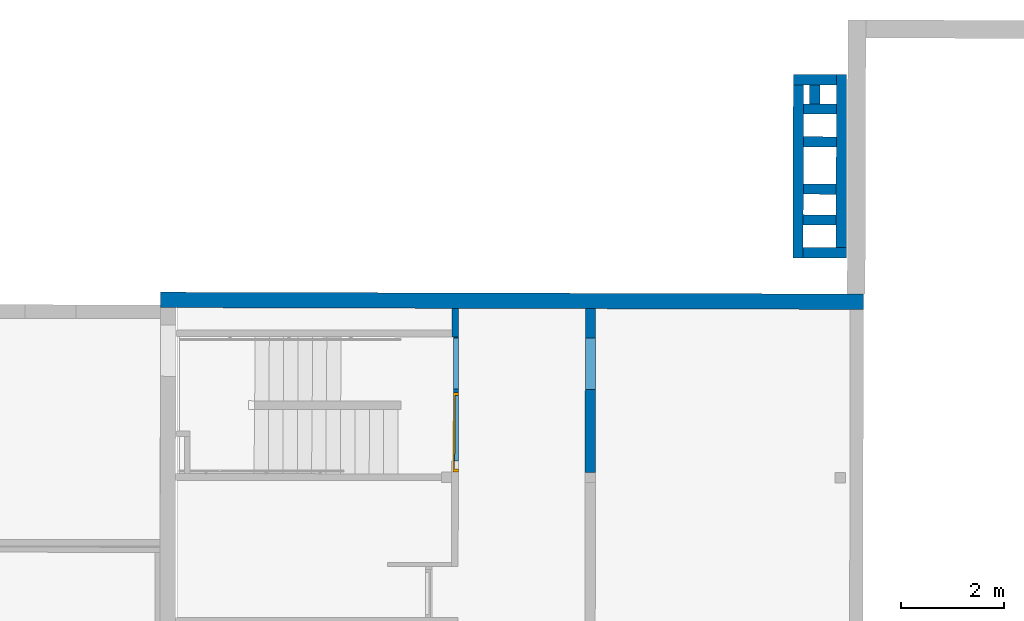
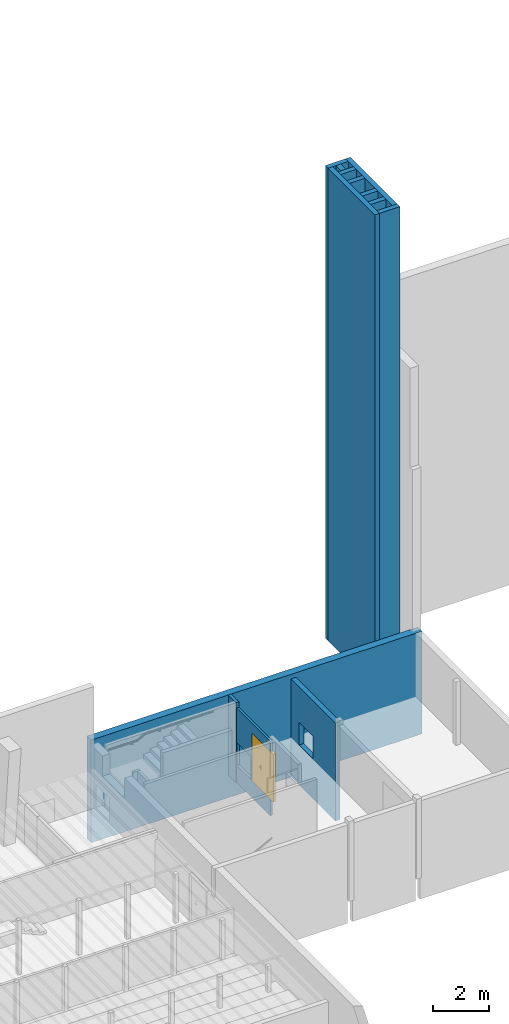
# One storey, part 10 of 24: 13 walls, 1 door, 3 openings.
"""IFC2X3 building model written with IfcOpenShell, lengths in metres."""

import ifcopenshell
import ifcopenshell.guid

model = None  # the IFC model being written
_history = None  # IfcOwnerHistory: only IFC2X3 demands one
_inside = {}  # id of a spatial element -> (the spatial element, [elements in it])
_under = {}  # id of a project, library or spatial element -> (it, [spatial elements below it])
_declared = {}  # id of a project -> (the project, [libraries it declares])
_typed = {}  # id of a type object -> (the type object, [elements of that type])
_made_of = {}  # id of a material, layer set ... -> (it, [elements and type objects made of it])


def new_model(schema):
    """Start an empty IFC model of exactly this schema.

    Asked for "IFC4X3", IfcOpenShell would pick the latest addendum, in which some entities
    have other attributes; the version numbers below select the first issue.
    IFC2X3 requires an IfcOwnerHistory on every rooted entity: one is made here for all.
    """
    global model, _history
    if schema == "IFC4X3":
        model = ifcopenshell.file(schema_version=(4, 3, 0, 0))
    else:
        model = ifcopenshell.file(schema=schema)
    _inside.clear()
    _under.clear()
    _declared.clear()
    _typed.clear()
    _made_of.clear()
    _history = None
    if model.schema == "IFC2X3":
        org = make("IfcOrganization", Name="unknown")
        user = make(
            "IfcPersonAndOrganization",
            ThePerson=make("IfcPerson", FamilyName="unknown"),
            TheOrganization=org,
        )
        app = make(
            "IfcApplication",
            ApplicationDeveloper=org,
            Version="unknown",
            ApplicationFullName="unknown",
            ApplicationIdentifier="unknown",
        )
        _history = make(
            "IfcOwnerHistory",
            OwningUser=user,
            OwningApplication=app,
            ChangeAction="ADDED",
            CreationDate=0,
        )
    return model


def make(cls, **values):
    """One entity of the class cls with the attributes given. An attribute that is None is left unset."""
    return model.create_entity(
        cls, **{name: value for name, value in values.items() if value is not None}
    )


def entity(cls, *values):
    """Any entity or typed value of the class cls, its attributes in the order of the schema. None: left unset."""
    e = model.create_entity(cls)
    for i, value in enumerate(values):
        if value is not None:
            e[i] = value
    return e


def rooted(cls, **values):
    """An entity with a GlobalId (a new one), such as an element, a storey or a relation."""
    return make(cls, GlobalId=ifcopenshell.guid.new(), OwnerHistory=_history, **values)


def si_unit(unit_type, name, prefix=None):
    """IfcSIUnit, for example si_unit("LENGTHUNIT", "METRE", prefix="MILLI")."""
    return make("IfcSIUnit", UnitType=unit_type, Prefix=prefix, Name=name)


def converted_unit(unit_type, name, factor, base, dimensions=None, offset=None):
    """IfcConversionBasedUnit, such as the inch: factor (a typed value) times the base unit."""
    return make(
        "IfcConversionBasedUnit"
        if offset is None
        else "IfcConversionBasedUnitWithOffset",
        ConversionOffset=offset,
        Dimensions=None
        if dimensions is None
        else entity("IfcDimensionalExponents", *dimensions),
        UnitType=unit_type,
        Name=name,
        ConversionFactor=make(
            "IfcMeasureWithUnit", ValueComponent=factor, UnitComponent=base
        ),
    )


def derived_unit(unit_type, elements):
    """IfcDerivedUnit: a product of units, each with its exponent."""
    return make(
        "IfcDerivedUnit",
        Elements=[
            make("IfcDerivedUnitElement", Unit=unit, Exponent=power)
            for unit, power in elements
        ],
        UnitType=unit_type,
    )


def assignment(units):
    """IfcUnitAssignment: the units of a project."""
    return None if units is None else make("IfcUnitAssignment", Units=units)


def point(xyz):
    """IfcCartesianPoint."""
    return None if xyz is None else make("IfcCartesianPoint", Coordinates=xyz)


def direction(xyz):
    """IfcDirection."""
    return None if xyz is None else make("IfcDirection", DirectionRatios=xyz)


def frame(location, z_axis=None, x_axis=None):
    """IfcAxis2Placement3D, a coordinate frame: its origin and axes. An axis left out is left unset."""
    return make(
        "IfcAxis2Placement3D",
        Location=point(location),
        Axis=direction(z_axis),
        RefDirection=direction(x_axis),
    )


def frame_2d(location, x_axis=None):
    """IfcAxis2Placement2D, a coordinate frame in the plane: its origin and x axis."""
    return make(
        "IfcAxis2Placement2D", Location=point(location), RefDirection=direction(x_axis)
    )


def origin():
    """The frame at (0, 0, 0) with its axes left unset."""
    return frame((0.0, 0.0, 0.0))


def place(relative_to, where):
    """IfcLocalPlacement: puts the frame where relative to a parent placement (None: the world)."""
    return make(
        "IfcLocalPlacement", PlacementRelTo=relative_to, RelativePlacement=where
    )


def context(
    kind, dimensions, precision=None, world=None, true_north=None, identifier=None
):
    """IfcGeometricRepresentationContext, for example the 3D "Model" context."""
    return make(
        "IfcGeometricRepresentationContext",
        ContextIdentifier=identifier,
        ContextType=kind,
        CoordinateSpaceDimension=dimensions,
        Precision=precision,
        WorldCoordinateSystem=world,
        TrueNorth=true_north,
    )


def subcontext(parent, identifier, kind, view, scale=None):
    """IfcGeometricRepresentationSubContext, for example "Body" below "Model"."""
    return make(
        "IfcGeometricRepresentationSubContext",
        ContextIdentifier=identifier,
        ContextType=kind,
        ParentContext=parent,
        TargetScale=scale,
        TargetView=view,
    )


def project(units=None, contexts=None):
    """IfcProject with its units and contexts."""
    return rooted(
        "IfcProject",
        Name="project",
        RepresentationContexts=contexts,
        UnitsInContext=assignment(units),
    )


def spatial(cls, under=None, at=None, **own):
    """A site, building, storey or space (cls), placed at a placement, below another one or the project."""
    s = rooted(cls, ObjectPlacement=at, **own)
    if under is not None:
        _under.setdefault(under.id(), (under, []))[1].append(s)
    return s


def polyline(points):
    """IfcPolyline through the points."""
    return make("IfcPolyline", Points=[point(p) for p in points])


def profile(cls, at=None, kind="AREA", **sizes):
    """A parametric profile (cls). Its sizes go by their IFC names, for example OverallWidth=200.0."""
    return make(cls, ProfileType=kind, Position=at, **sizes)


def rectangle(**sizes):
    """IfcRectangleProfileDef."""
    return profile("IfcRectangleProfileDef", **sizes)


def outline(outer, holes=None, kind="AREA"):
    """IfcArbitraryClosedProfileDef: a profile drawn as a closed curve; with holes, ...WithVoids."""
    if holes is None:
        return make("IfcArbitraryClosedProfileDef", ProfileType=kind, OuterCurve=outer)
    return make(
        "IfcArbitraryProfileDefWithVoids",
        ProfileType=kind,
        OuterCurve=outer,
        InnerCurves=holes,
    )


def extrude(swept, where, along, depth):
    """IfcExtrudedAreaSolid: the profile swept, set in the frame where, extruded along a direction by depth."""
    return make(
        "IfcExtrudedAreaSolid",
        SweptArea=swept,
        Position=where,
        ExtrudedDirection=direction(along),
        Depth=depth,
    )


def clip(a, b, op="DIFFERENCE"):
    """IfcBooleanClippingResult: the solid a cut by the half space b."""
    return make(
        "IfcBooleanClippingResult", Operator=op, FirstOperand=a, SecondOperand=b
    )


def bounded_halfspace(plane, agree, where, boundary):
    """IfcPolygonalBoundedHalfSpace: a half space limited to a polygon's prism."""
    return make(
        "IfcPolygonalBoundedHalfSpace",
        BaseSurface=make("IfcPlane", Position=plane),
        AgreementFlag=agree,
        Position=where,
        PolygonalBoundary=boundary,
    )


def faces_of(points, faces, orient=None, outer=None):
    """IfcFace entities. A face is a list of loops; a loop is a list of indices into points, from 0.

    orient and outer hold one flag for each loop. By default every Orientation is true, the
    first loop of a face is its IfcFaceOuterBound and the others are IfcFaceBound.
    """
    made = []
    for i, loops in enumerate(faces):
        bounds = []
        for j, loop in enumerate(loops):
            is_outer = j == 0 if outer is None else outer[i][j]
            bounds.append(
                make(
                    "IfcFaceOuterBound" if is_outer else "IfcFaceBound",
                    Bound=make("IfcPolyLoop", Polygon=[points[k] for k in loop]),
                    Orientation=True if orient is None else orient[i][j],
                )
            )
        made.append(make("IfcFace", Bounds=bounds))
    return made


def faceted_brep(points, faces, orient=None, outer=None, voids=None):
    """IfcFacetedBrep: a solid bounded by flat faces; with voids (closed shells), ...WithVoids."""
    shared = [point(p) for p in points]
    hull = make("IfcClosedShell", CfsFaces=faces_of(shared, faces, orient, outer))
    if voids is None:
        return make("IfcFacetedBrep", Outer=hull)
    return make(
        "IfcFacetedBrepWithVoids",
        Outer=hull,
        Voids=[
            make(cls, CfsFaces=faces_of(shared, fs, o, b)) for cls, fs, o, b in voids
        ],
    )


def shape(context_of_items, identifier, shape_type, items):
    """IfcShapeRepresentation: the items that make up one representation, for example the "Body"."""
    return make(
        "IfcShapeRepresentation",
        ContextOfItems=context_of_items,
        RepresentationIdentifier=identifier,
        RepresentationType=shape_type,
        Items=items,
    )


def source(mapping_origin, context_of_items, identifier, shape_type, items):
    """IfcRepresentationMap: a shape defined once, which mapped items show again and again."""
    return make(
        "IfcRepresentationMap",
        MappingOrigin=mapping_origin,
        MappedRepresentation=shape(context_of_items, identifier, shape_type, items),
    )


def transform(
    local_origin,
    x_axis=None,
    y_axis=None,
    z_axis=None,
    scale=None,
    scale2=None,
    scale3=None,
    uniform=True,
):
    """IfcCartesianTransformationOperator3D, or its non-uniform kind. x_axis, y_axis, z_axis: its Axis1, 2, 3."""
    if uniform:
        return make(
            "IfcCartesianTransformationOperator3D",
            Axis1=direction(x_axis),
            Axis2=direction(y_axis),
            LocalOrigin=point(local_origin),
            Scale=scale,
            Axis3=direction(z_axis),
        )
    return make(
        "IfcCartesianTransformationOperator3DnonUniform",
        Axis1=direction(x_axis),
        Axis2=direction(y_axis),
        LocalOrigin=point(local_origin),
        Scale=scale,
        Axis3=direction(z_axis),
        Scale2=scale2,
        Scale3=scale3,
    )


def mapped(mapping_source, mapping_target):
    """IfcMappedItem: shows the shape of a source again, moved by a transform."""
    return make(
        "IfcMappedItem", MappingSource=mapping_source, MappingTarget=mapping_target
    )


def material(Name=None, Category=None):
    """IfcMaterial."""
    return make("IfcMaterial", Name=Name, Category=Category)


def material_list(materials):
    """IfcMaterialList."""
    return make("IfcMaterialList", Materials=materials)


def layer(
    of_material, thickness, ventilated=None, Name=None, Category=None, Priority=None
):
    """IfcMaterialLayer: one layer of a wall or slab, of a material (None: an air gap)."""
    return make(
        "IfcMaterialLayer",
        Material=of_material,
        LayerThickness=thickness,
        IsVentilated=ventilated,
        Name=Name,
        Category=Category,
        Priority=Priority,
    )


def layer_set(layers, Name=None):
    """IfcMaterialLayerSet."""
    return make("IfcMaterialLayerSet", MaterialLayers=layers, LayerSetName=Name)


def layer_usage(for_layer_set, set_direction, sense, offset, extent=None):
    """IfcMaterialLayerSetUsage: how a layer set lies in its element."""
    return make(
        "IfcMaterialLayerSetUsage",
        ForLayerSet=for_layer_set,
        LayerSetDirection=set_direction,
        DirectionSense=sense,
        OffsetFromReferenceLine=offset,
        ReferenceExtent=extent,
    )


def made_of(thing, what):
    """Note that an element or type object is made of a material, layer set ...; save() writes the relation."""
    if what is not None:
        _made_of.setdefault(what.id(), (what, []))[1].append(thing)
    return thing


def type_object(cls, material=None, **own):
    """A type object (cls), such as IfcWallType, which elements share."""
    return made_of(rooted(cls, **own), material)


def type_shapes(of_type, sources):
    """Give a type object the sources (RepresentationMaps) that its elements show as mapped items."""
    of_type.RepresentationMaps = sources


def element(
    cls,
    number,
    at=None,
    inside=None,
    cuts=None,
    type_object=None,
    material=None,
    context=None,
    identifier="Body",
    shape_type=None,
    held_by="IfcProductDefinitionShape",
    body=None,
    shapes=None,
    **own,
):
    """One element of the class cls, such as IfcWall. Its Tag is "e" and its number.

    at: its placement. inside: the storey or other place that contains it. cuts: it is an
    opening in that element (IfcRelVoidsElement). A single representation is given by context,
    identifier, shape_type and body (its items); several are given by shapes. held_by: the class
    of the entity that holds the representations. save() writes the other relations.
    """
    e = rooted(cls, Tag="e%d" % number, ObjectPlacement=at, **own)
    if body is not None:
        shapes = [shape(context, identifier, shape_type, body)]
    if shapes is not None:
        e.Representation = make(held_by, Representations=shapes)
    if inside is not None:
        _inside.setdefault(inside.id(), (inside, []))[1].append(e)
    if cuts is not None:
        rooted(
            "IfcRelVoidsElement", RelatingBuildingElement=cuts, RelatedOpeningElement=e
        )
    if type_object is not None:
        _typed.setdefault(type_object.id(), (type_object, []))[1].append(e)
    return made_of(e, material)


def fill(opening, filler):
    """IfcRelFillsElement: the door or window that sits in an opening."""
    return rooted(
        "IfcRelFillsElement",
        RelatingOpeningElement=opening,
        RelatedBuildingElement=filler,
    )


def aggregate(whole, parts):
    """IfcRelAggregates: a whole, such as a stair, and the parts it consists of."""
    return rooted("IfcRelAggregates", RelatingObject=whole, RelatedObjects=parts)


def save(model, path):
    """Write the relations noted so far, then the file.

    IfcRelAggregates (storeys below a building ...), IfcRelContainedInSpatialStructure (elements
    in a storey), IfcRelDefinesByType, IfcRelAssociatesMaterial and IfcRelDeclares: one each for
    every whole, place, type object, material and project.
    """
    for whole, parts in _under.values():
        aggregate(whole, parts)
    for where, things in _inside.values():
        rooted(
            "IfcRelContainedInSpatialStructure",
            RelatedElements=things,
            RelatingStructure=where,
        )
    for kind, things in _typed.values():
        rooted("IfcRelDefinesByType", RelatedObjects=things, RelatingType=kind)
    for what, things in _made_of.values():
        rooted("IfcRelAssociatesMaterial", RelatedObjects=things, RelatingMaterial=what)
    for by, libraries in _declared.values():
        rooted("IfcRelDeclares", RelatingContext=by, RelatedDefinitions=libraries)
    model.write(path)


model = new_model("IFC2X3")

# Units and contexts
model_context = context("Model", 3, precision=1e-05, world=origin(), true_north=direction((6.123233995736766e-17, 1.0)))
body_context = subcontext(model_context, "Body", "Model", "MODEL_VIEW")
ifc_project = project(units=[si_unit("LENGTHUNIT", "METRE"), si_unit("AREAUNIT", "SQUARE_METRE"), converted_unit("PLANEANGLEUNIT", "DEGREE", entity("IfcPlaneAngleMeasure", 0.017453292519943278), si_unit("PLANEANGLEUNIT", "RADIAN"), dimensions=[0, 0, 0, 0, 0, 0, 0]), derived_unit("THERMALTRANSMITTANCEUNIT", [(si_unit("MASSUNIT", "GRAM", prefix="KILO"), 1), (si_unit("THERMODYNAMICTEMPERATUREUNIT", "KELVIN"), -1), (si_unit("TIMEUNIT", "SECOND"), -3)])], contexts=[model_context])

# Site, building, storey
site_placement = place(None, frame((1253.6752467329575, 2072.143113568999, 91.49999999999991), z_axis=(0.0, 0.0, 1.0), x_axis=(0.7237211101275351, 0.6900925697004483, 0.0)))
site = spatial("IfcSite", under=ifc_project, at=site_placement, Name="Surface", CompositionType="ELEMENT")
building_placement = place(site_placement, origin())
building = spatial("IfcBuilding", under=site, at=building_placement, CompositionType="ELEMENT")
storey_placement = place(building_placement, frame((0.0, 0.0, -7.049999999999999)))
storey = spatial("IfcBuildingStorey", under=building, at=storey_placement, Name="R-1", CompositionType="ELEMENT", Elevation=-7.049999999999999)

# Wall
ifc_material_1 = material(Name="OMD_Béton blanc")
ifc_layer_1 = layer(ifc_material_1, 0.12999999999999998)
ifc_layer_set_1 = layer_set([ifc_layer_1], Name="Mur de base:MUR 13")
ifc_layer_usage_1 = layer_usage(ifc_layer_set_1, "AXIS2", "NEGATIVE", 0.06499999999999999)
wall_type_1 = type_object("IfcWallType", Name="Mur de base:MUR 13", PredefinedType="STANDARD", material=ifc_layer_set_1)
wall_1_placement = place(storey_placement, frame((195.5922756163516, -0.7708145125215, 0.0), z_axis=(0.0, 0.0, 1.0), x_axis=(-0.6909838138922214, -0.722870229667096, 0.0)))
element("IfcWallStandardCase", 1, at=wall_1_placement, inside=storey, type_object=wall_type_1, material=ifc_layer_usage_1, Name="Mur de base:MUR 13", ObjectType="Mur de base:MUR 13", context=body_context, shape_type="SweptSolid", body=[
    extrude(outline(polyline([(-0.04833396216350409, -0.20648252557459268), (-0.01833018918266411, -0.20648252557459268), (0.08166603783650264, -0.206482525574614), (0.08166603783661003, 0.3478758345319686), (-0.04833396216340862, 0.348054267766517), (-0.0483339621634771, -0.07648252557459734), (-0.04833396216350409, -0.20648252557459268)])), frame((0.34805426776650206, -0.01666603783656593, 0.0), z_axis=(0.0, 0.0, 1.0), x_axis=(0.0, 1.0, 0.0)), (0.0, 0.0, 1.0), 3.499999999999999),
])

# Wall, openings, door
ifc_layer_2 = layer(ifc_material_1, 0.1)
ifc_layer_set_2 = layer_set([ifc_layer_2], Name="Mur de base:MUR 10")
ifc_layer_usage_2 = layer_usage(ifc_layer_set_2, "AXIS2", "NEGATIVE", 0.05)
wall_type_2 = type_object("IfcWallType", Name="Mur de base:MUR 10", PredefinedType="STANDARD", material=ifc_layer_set_2)
wall_2_placement = place(storey_placement, frame((195.21994544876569, -1.1820400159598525, 0.0), z_axis=(0.0, 0.0, 1.0), x_axis=(-0.690983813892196, -0.7228702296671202, 0.0)))
wall_2 = element("IfcWallStandardCase", 2, at=wall_2_placement, inside=storey, type_object=wall_type_2, material=ifc_layer_usage_2, Name="Mur de base:MUR 10", ObjectType="Mur de base:MUR 10", context=body_context, shape_type="Clipping", body=[
    clip(extrude(rectangle(XDim=2.4150000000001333, YDim=0.10000000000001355, at=frame_2d((1.2075000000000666, 2.192690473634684e-15), x_axis=(-1.0, 0.0))), origin(), (0.0, 0.0, 1.0), 3.2529999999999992), bounded_halfspace(frame((0.0, -0.04999999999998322, 3.2529999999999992), z_axis=(0.0, 0.0, -1.0), x_axis=(1.0, 0.0, 0.0)), True, frame((0.0, -0.04999999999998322, 3.2529999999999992)), polyline([(0.0, 0.0), (2.4150000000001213, 0.0), (2.4150000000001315, 0.09999999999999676), (0.0, 0.09999999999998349), (0.0, 0.0)]))),
])
opening_1_placement = place(wall_2_placement, frame((134.03936091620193, -141.9354573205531, 0.7499999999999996)))
element("IfcOpeningElement", 3, at=opening_1_placement, cuts=wall_2, Name="Mur de base:MUR 10", ObjectType="Opening", context=body_context, shape_type="SweptSolid", body=[
    extrude(rectangle(XDim=1.0, YDim=0.9999999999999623, at=frame_2d((0.0, 2.145505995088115e-14), x_axis=(1.0, 0.0))), frame((-133.51936091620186, 140.46145732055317, 0.5), z_axis=(0.0, 1.0, 0.0), x_axis=(0.0, 0.0, -1.0)), (0.0, 0.0, 1.0), 3.0480000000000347),
])
opening_2_placement = place(wall_2_placement, frame((2.6349999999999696, 0.05000000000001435, 0.7299999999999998)))
opening_2 = element("IfcOpeningElement", 4, at=opening_2_placement, cuts=wall_2, Name="OMD_Porte 2V tunnel:140x204:1", ObjectType="Opening", context=body_context, shape_type="SweptSolid", body=[
    extrude(rectangle(XDim=2.085, YDim=1.5499999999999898, at=frame_2d((1.0425, 0.7749999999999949), x_axis=(1.0, 0.0))), frame((0.0, 0.0, 0.0), z_axis=(0.0, -1.0, 0.0), x_axis=(0.0, 0.0, 1.0)), (0.0, 0.0, 1.0), 0.1),
])
ifc_material_2 = material(Name="<Unnamed>")
ifc_material_3 = material(Name="Porte - Poignée")
ifc_material_4 = material(Name="OMD_Bois")
ifc_material_list = material_list([ifc_material_2, ifc_material_3, ifc_material_4])
door_style = type_object("IfcDoorStyle", Name="OMD_Porte 2V tunnel:140x204", ConstructionType="NOTDEFINED", OperationType="NOTDEFINED", ParameterTakesPrecedence=False, Sizeable=False, material=ifc_material_list)
shared_shape = source(origin(), body_context, "Body", "Brep", [
    faceted_brep([(0.1450000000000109, 0.030000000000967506, 0.0), (0.6750000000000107, 0.030000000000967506, 0.0), (0.6750000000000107, 0.0, 0.0), (0.1450000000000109, 0.0, 0.0), (0.1450000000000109, 0.030000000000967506, 2.04), (0.1450000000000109, 0.0, 2.04), (0.6750000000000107, 0.0, 2.04), (0.6750000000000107, 0.030000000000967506, 2.04)], [[[0, 1, 2, 3]], [[4, 0, 3, 5]], [[5, 3, 2, 6]], [[6, 2, 1, 7]], [[7, 1, 0, 4]], [[4, 5, 6, 7]]]),
    faceted_brep([(0.7279747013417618, 0.035000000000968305, 1.0077804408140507), (0.7239999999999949, 0.035000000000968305, 1.0069999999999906), (0.7239999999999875, 0.035000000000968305, 0.9929999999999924), (0.7279747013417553, 0.035000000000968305, 0.9922195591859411), (0.7320252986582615, 0.035000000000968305, 0.9922195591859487), (0.7360000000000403, 0.035000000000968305, 0.9930000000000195), (0.7360000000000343, 0.035000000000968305, 1.0069999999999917), (0.7320252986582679, 0.035000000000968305, 1.007780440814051), (0.7360000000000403, 0.057485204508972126, 0.9930000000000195), (0.7360000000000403, 0.057485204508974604, 1.0069999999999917), (0.7320252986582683, 0.05913157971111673, 1.007780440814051), (0.7458389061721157, 0.07294518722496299, 1.007780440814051), (0.7441610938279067, 0.07699578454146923, 1.0077804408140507), (0.7279747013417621, 0.06080939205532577, 1.0077804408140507), (0.8356847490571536, 0.06646731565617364, 1.0077804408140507), (0.8385489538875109, 0.06933152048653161, 1.0077804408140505), (0.8308846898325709, 0.07699578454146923, 1.0077804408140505), (0.8292068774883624, 0.07294518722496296, 1.0077804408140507), (0.7239999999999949, 0.06245576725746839, 1.0069999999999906), (0.7239999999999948, 0.06245576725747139, 0.9929999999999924), (0.7279747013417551, 0.060809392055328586, 0.9922195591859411), (0.7441610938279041, 0.07699578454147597, 0.9922195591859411), (0.7458389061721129, 0.07294518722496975, 0.9922195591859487), (0.7320252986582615, 0.05913157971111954, 0.9922195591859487), (0.8385489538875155, 0.06933152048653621, 0.9922195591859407), (0.8356847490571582, 0.06646731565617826, 0.9922195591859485), (0.8292068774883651, 0.07294518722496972, 0.9922195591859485), (0.8308846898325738, 0.07699578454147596, 0.9922195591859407), (0.74748528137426, 0.06897048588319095, 0.9930000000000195), (0.7474852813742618, 0.06897048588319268, 1.0069999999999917), (0.7425147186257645, 0.08097048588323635, 1.0069999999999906), (0.7425147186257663, 0.08097048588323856, 0.9929999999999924), (0.787522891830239, 0.06897048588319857, 0.9930000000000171), (0.8275605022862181, 0.06897048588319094, 0.9930000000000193), (0.8275605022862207, 0.06897048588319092, 1.0069999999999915), (0.787522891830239, 0.06897048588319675, 1.0069999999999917), (0.7875228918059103, 0.07512492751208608, 1.0078781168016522), (0.8325310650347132, 0.0809704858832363, 1.0069999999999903), (0.7926005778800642, 0.08097048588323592, 1.0069999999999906), (0.8325310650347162, 0.08097048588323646, 0.9929999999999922), (0.7824452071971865, 0.08097048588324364, 0.9929999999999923), (0.7875228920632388, 0.07512492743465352, 0.9921218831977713), (0.8328742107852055, 0.06365677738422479, 0.9930000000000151), (0.8413594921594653, 0.0721420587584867, 0.99299999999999), (0.8413594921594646, 0.07214205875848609, 1.0069999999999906), (0.8328742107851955, 0.06365677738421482, 1.0069999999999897)], [[[0, 1, 2, 3, 4, 5, 6, 7]], [[6, 5, 8, 9]], [[9, 10, 7, 6]], [[10, 11, 12, 13, 0, 7]], [[14, 15, 16, 17]], [[13, 18, 1, 0]], [[2, 1, 18, 19]], [[19, 20, 3, 2]], [[20, 21, 22, 23, 4, 3]], [[24, 25, 26, 27]], [[23, 8, 5, 4]], [[9, 8, 28, 29]], [[29, 11, 10, 9]], [[12, 30, 18, 13]], [[19, 18, 30, 31]], [[31, 21, 20, 19]], [[22, 28, 8, 23]], [[29, 28, 32, 33, 34, 35]], [[11, 35, 36]], [[16, 37, 38]], [[30, 12, 38]], [[38, 12, 36]], [[36, 35, 17]], [[17, 16, 36]], [[35, 11, 29]], [[34, 17, 35]], [[11, 36, 12]], [[38, 36, 16]], [[31, 30, 38, 37, 39, 40]], [[40, 41, 21]], [[41, 40, 27]], [[21, 31, 40]], [[39, 27, 40]], [[41, 32, 22]], [[22, 21, 41]], [[26, 32, 41]], [[28, 22, 32]], [[32, 26, 33]], [[26, 41, 27]], [[42, 25, 24, 43, 44, 15, 14, 45]], [[34, 33, 42, 45]], [[45, 14, 17, 34]], [[15, 44, 37, 16]], [[39, 37, 44, 43]], [[43, 24, 27, 39]], [[25, 42, 33, 26]]]),
    faceted_brep([(0.7279747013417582, -0.004999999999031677, 1.0077804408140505), (0.7320252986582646, -0.004999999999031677, 1.007780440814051), (0.7360000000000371, -0.004999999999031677, 1.006999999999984), (0.7360000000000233, -0.004999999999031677, 0.9930000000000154), (0.7320252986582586, -0.004999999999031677, 0.9922195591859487), (0.7279747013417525, -0.004999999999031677, 0.992219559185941), (0.7239999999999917, -0.004999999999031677, 0.992999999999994), (0.7239999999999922, -0.004999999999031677, 1.0069999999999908), (0.723999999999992, -0.03265095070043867, 1.0069999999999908), (0.727974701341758, -0.031004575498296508, 1.0077804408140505), (0.7440235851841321, -0.047053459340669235, 1.0077804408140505), (0.745701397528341, -0.043002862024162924, 1.007780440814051), (0.7320252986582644, -0.029326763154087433, 1.007780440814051), (0.8385218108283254, -0.03938919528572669, 1.0077804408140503), (0.8356576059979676, -0.036524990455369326, 1.0077804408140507), (0.8291797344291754, -0.043002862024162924, 1.0077804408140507), (0.8308575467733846, -0.047053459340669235, 1.0077804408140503), (0.7360000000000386, -0.027680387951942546, 1.0069999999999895), (0.7360000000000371, -0.027680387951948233, 0.9930000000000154), (0.7320252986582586, -0.029326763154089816, 0.9922195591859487), (0.7457013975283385, -0.04300286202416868, 0.9922195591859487), (0.7440235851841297, -0.04705345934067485, 0.992219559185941), (0.7279747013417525, -0.031004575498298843, 0.992219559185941), (0.8356576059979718, -0.03652499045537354, 0.9922195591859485), (0.8385218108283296, -0.03938919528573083, 0.9922195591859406), (0.8308575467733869, -0.04705345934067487, 0.9922195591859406), (0.8291797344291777, -0.04300286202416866, 0.9922195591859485), (0.7239999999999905, -0.03265095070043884, 0.9929999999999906), (0.7423772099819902, -0.051028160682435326, 1.0069999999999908), (0.7473477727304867, -0.03902816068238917, 1.0069999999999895), (0.7473477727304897, -0.03902816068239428, 0.9930000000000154), (0.7423772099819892, -0.05102816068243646, 0.9929999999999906), (0.7823076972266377, -0.05102816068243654, 1.0069999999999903), (0.7874405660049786, -0.045182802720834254, 1.0078781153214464), (0.8325039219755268, -0.051028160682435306, 1.0069999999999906), (0.7874405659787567, -0.039028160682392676, 1.0069999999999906), (0.8275333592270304, -0.039028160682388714, 1.0069999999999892), (0.827533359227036, -0.03902816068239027, 0.9930000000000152), (0.7874405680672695, -0.03902816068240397, 0.9930000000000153), (0.7874405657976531, -0.04518280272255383, 0.9921218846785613), (0.832503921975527, -0.05102816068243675, 0.9929999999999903), (0.7925734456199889, -0.051028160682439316, 0.9929999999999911), (0.8328470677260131, -0.03371445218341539, 1.0069999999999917), (0.8413323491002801, -0.042199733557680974, 1.0069999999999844), (0.841332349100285, -0.04219973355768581, 0.9929999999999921), (0.8328470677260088, -0.03371445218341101, 0.9930000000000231)], [[[0, 1, 2, 3, 4, 5, 6, 7]], [[8, 9, 0, 7]], [[9, 10, 11, 12, 1, 0]], [[13, 14, 15, 16]], [[12, 17, 2, 1]], [[3, 2, 17, 18]], [[18, 19, 4, 3]], [[19, 20, 21, 22, 5, 4]], [[23, 24, 25, 26]], [[22, 27, 6, 5]], [[7, 6, 27, 8]], [[28, 10, 9, 8]], [[11, 29, 17, 12]], [[18, 17, 29, 30]], [[30, 20, 19, 18]], [[21, 31, 27, 22]], [[8, 27, 31, 28]], [[32, 33, 10]], [[33, 32, 16]], [[10, 28, 32]], [[34, 16, 32]], [[33, 35, 11]], [[11, 10, 33]], [[15, 35, 33]], [[29, 11, 35]], [[35, 15, 36]], [[15, 33, 16]], [[30, 29, 35, 36, 37, 38]], [[20, 38, 39]], [[25, 40, 41]], [[31, 21, 41]], [[41, 21, 39]], [[39, 38, 26]], [[26, 25, 39]], [[38, 20, 30]], [[37, 26, 38]], [[20, 39, 21]], [[41, 39, 25]], [[28, 31, 41, 40, 34, 32]], [[42, 14, 13, 43, 44, 24, 23, 45]], [[43, 13, 16, 34]], [[14, 42, 36, 15]], [[37, 36, 42, 45]], [[45, 23, 26, 37]], [[24, 44, 40, 25]], [[34, 40, 44, 43]]]),
    faceted_brep([(0.7403527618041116, 0.030000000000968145, 0.8660039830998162), (0.7500000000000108, 0.030000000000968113, 0.8700000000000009), (0.7500000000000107, 0.030000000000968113, 1.0800000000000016), (0.7403527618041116, 0.030000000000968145, 1.0839960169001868), (0.730000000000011, 0.03000000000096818, 1.0853589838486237), (0.7196472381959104, 0.03000000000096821, 1.0839960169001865), (0.7100000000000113, 0.030000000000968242, 1.0800000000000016), (0.7100000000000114, 0.030000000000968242, 0.8700000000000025), (0.7196472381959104, 0.03000000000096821, 0.866003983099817), (0.7300000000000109, 0.03000000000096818, 0.8646410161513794), (0.7403527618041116, 0.035000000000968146, 1.0839960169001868), (0.7500000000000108, 0.03500000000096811, 1.0800000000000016), (0.7500000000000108, 0.03500000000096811, 0.8700000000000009), (0.7403527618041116, 0.035000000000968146, 0.8660039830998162), (0.7300000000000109, 0.03500000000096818, 0.8646410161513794), (0.7196472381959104, 0.035000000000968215, 0.866003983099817), (0.7100000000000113, 0.03500000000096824, 0.8700000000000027), (0.7100000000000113, 0.03500000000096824, 1.0800000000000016), (0.7196472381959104, 0.035000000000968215, 1.0839960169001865), (0.730000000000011, 0.03500000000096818, 1.0853589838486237)], [[[0, 1, 2, 3, 4, 5, 6, 7, 8, 9]], [[10, 11, 12, 13, 14, 15, 16, 17, 18, 19]], [[11, 10, 3, 2]], [[3, 10, 19, 4]], [[19, 18, 5, 4]], [[18, 17, 6, 5]], [[7, 6, 17, 16]], [[16, 15, 8, 7]], [[8, 15, 14, 9]], [[14, 13, 0, 9]], [[13, 12, 1, 0]], [[2, 1, 12, 11]]]),
    faceted_brep([(0.7403527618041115, -0.004999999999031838, 0.8660039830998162), (0.7500000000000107, -0.004999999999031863, 0.8700000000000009), (0.7500000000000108, -0.004999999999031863, 1.0800000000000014), (0.7403527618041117, -0.004999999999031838, 1.0839960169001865), (0.7300000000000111, -0.004999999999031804, 1.0853589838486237), (0.7196472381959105, -0.00499999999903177, 1.0839960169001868), (0.7100000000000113, -0.0049999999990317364, 1.0800000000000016), (0.7100000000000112, -0.0049999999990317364, 0.8700000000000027), (0.71964723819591, -0.00499999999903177, 0.8660039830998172), (0.7300000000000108, -0.004999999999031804, 0.8646410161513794), (0.7403527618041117, 0.0, 1.0839960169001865), (0.7500000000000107, 0.0, 1.0800000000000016), (0.7500000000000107, 0.0, 0.8700000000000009), (0.7403527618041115, 0.0, 0.8660039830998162), (0.7300000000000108, 0.0, 0.8646410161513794), (0.71964723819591, 0.0, 0.8660039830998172), (0.7100000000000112, 0.0, 0.8700000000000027), (0.7100000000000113, 0.0, 1.0800000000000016), (0.7196472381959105, 0.0, 1.0839960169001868), (0.7300000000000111, 0.0, 1.0853589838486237)], [[[0, 1, 2, 3, 4, 5, 6, 7, 8, 9]], [[10, 11, 12, 13, 14, 15, 16, 17, 18, 19]], [[16, 15, 8, 7]], [[8, 15, 14, 9]], [[14, 13, 0, 9]], [[13, 12, 1, 0]], [[2, 1, 12, 11]], [[11, 10, 3, 2]], [[3, 10, 19, 4]], [[19, 18, 5, 4]], [[18, 17, 6, 5]], [[7, 6, 17, 16]]]),
    faceted_brep([(0.6750000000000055, 0.030000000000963, 0.0), (1.6050000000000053, 0.0300000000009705, 0.0), (1.6050000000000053, 0.0, 0.0), (0.675000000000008, 0.0, 0.0), (0.6750000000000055, 0.030000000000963, 2.04), (0.675000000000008, 0.0, 2.04), (1.6050000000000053, 0.0, 2.04), (1.6050000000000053, 0.0300000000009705, 2.04)], [[[0, 1, 2, 3]], [[4, 0, 3, 5]], [[5, 3, 2, 6]], [[6, 2, 1, 7]], [[7, 1, 0, 4]], [[4, 5, 6, 7]]]),
    faceted_brep([(0.10000000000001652, 0.0, 0.0), (0.10000000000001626, 0.10000000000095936, 0.0), (0.1600000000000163, 0.10000000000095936, 0.0), (0.16000000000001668, 0.030000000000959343, 0.0), (0.14500000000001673, 0.0300000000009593, 0.0), (0.14500000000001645, 0.0, 0.0), (0.14500000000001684, 0.0, 2.0399999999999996), (1.605000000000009, 0.0, 2.0399999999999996), (1.6050000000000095, 0.0, 0.0), (1.6500000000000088, 0.0, 0.0), (1.6500000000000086, 0.0, 2.0849999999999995), (0.10000000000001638, 0.0, 2.085), (0.1450000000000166, 0.0300000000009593, 2.0399999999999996), (0.16000000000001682, 0.030000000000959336, 2.0249999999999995), (1.5900000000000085, 0.03000000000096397, 2.0249999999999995), (1.5900000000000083, 0.03000000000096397, 0.0), (1.6050000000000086, 0.030000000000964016, 0.0), (1.6050000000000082, 0.030000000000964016, 2.039999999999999), (0.16000000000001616, 0.10000000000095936, 2.0249999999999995), (0.10000000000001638, 0.10000000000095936, 2.0849999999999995), (1.6500000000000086, 0.10000000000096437, 2.0849999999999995), (1.6500000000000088, 0.10000000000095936, 0.0), (1.5900000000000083, 0.10000000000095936, 0.0), (1.5900000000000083, 0.10000000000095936, 2.0249999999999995)], [[[0, 1, 2, 3, 4, 5]], [[5, 6, 7, 8, 9, 10, 11, 0]], [[4, 12, 6, 5]], [[3, 13, 14, 15, 16, 17, 12, 4]], [[2, 18, 13, 3]], [[1, 19, 20, 21, 22, 23, 18, 2]], [[0, 11, 19, 1]], [[10, 9, 21, 20]], [[9, 8, 16, 15, 22, 21]], [[17, 16, 8, 7]], [[23, 22, 15, 14]], [[12, 17, 7, 6]], [[18, 23, 14, 13]], [[11, 10, 20, 19]]]),
])
type_shapes(door_style, [shared_shape])
door_placement = place(opening_2_placement, frame((-1.6500000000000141, -0.09999999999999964, 0.0)))
door = element("IfcDoor", 5, at=door_placement, inside=storey, type_object=door_style, material=ifc_material_list, Name="OMD_Porte 2V tunnel:140x204", ObjectType="OMD_Porte 2V tunnel:140x204", OverallHeight=2.085, OverallWidth=1.5499999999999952, context=body_context, shape_type="MappedRepresentation", body=[
    mapped(shared_shape, transform((0.0, 0.0, 0.0), scale=1.0)),
])
fill(opening_2, door)

# Wall
ifc_layer_3 = layer(ifc_material_1, 0.29999999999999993)
ifc_layer_set_3 = layer_set([ifc_layer_3], Name="Mur de base:MUR 30")
ifc_layer_usage_3 = layer_usage(ifc_layer_set_3, "AXIS2", "NEGATIVE", 0.14999999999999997)
wall_type_3 = type_object("IfcWallType", Name="Mur de base:MUR 30", PredefinedType="STANDARD", material=ifc_layer_set_3)
wall_3_placement = place(storey_placement, frame((191.55363755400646, 3.3079534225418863, -1.0), z_axis=(0.0, 0.0, 1.0), x_axis=(0.721921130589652, -0.691975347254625, 0.0)))
element("IfcWallStandardCase", 6, at=wall_3_placement, inside=storey, type_object=wall_type_3, material=ifc_layer_usage_3, Name="Mur de base:MUR 30", ObjectType="Mur de base:MUR 30", context=body_context, shape_type="SweptSolid", body=[
    extrude(outline(polyline([(-0.083862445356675, -6.456805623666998), (0.2161378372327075, -6.456805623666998), (0.2349252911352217, 7.231053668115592), (-0.06507479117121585, 7.231199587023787), (-0.0654865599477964, 6.93119975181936), (-0.07642962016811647, -1.041518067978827), (-0.07670413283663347, -1.2415180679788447), (-0.08350557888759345, -6.196805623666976), (-0.083862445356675, -6.456805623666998)])), frame((7.2313693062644, -0.07499999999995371, 0.0), z_axis=(0.0, 0.0, 1.0), x_axis=(-0.0013725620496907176, 0.9999990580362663, 0.0)), (0.0, 0.0, 1.0), 4.499999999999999),
])

# Wall, opening
ifc_material_5 = material(Name="Béton - Béton coulé sur place")
ifc_layer_4 = layer(ifc_material_5, 0.2)
ifc_layer_set_4 = layer_set([ifc_layer_4], Name="Mur de base:MUR 20")
ifc_layer_usage_4 = layer_usage(ifc_layer_set_4, "AXIS2", "NEGATIVE", 0.1)
wall_type_4 = type_object("IfcWallType", Name="Mur de base:MUR 20", PredefinedType="STANDARD", material=ifc_layer_set_4)
wall_4_placement = place(storey_placement, frame((197.494575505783, -2.594139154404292, -1.0), z_axis=(0.0, 0.0, 1.0), x_axis=(-0.6909838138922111, -0.7228702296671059, 0.0)))
wall_4 = element("IfcWallStandardCase", 7, at=wall_4_placement, inside=storey, type_object=wall_type_4, material=ifc_layer_usage_4, Name="Mur de base:MUR 20", ObjectType="Mur de base:MUR 20", context=body_context, shape_type="SweptSolid", body=[
    extrude(outline(polyline([(-0.10000000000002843, -1.5929154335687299), (0.09999999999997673, -1.5929154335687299), (0.10000000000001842, 1.5927781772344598), (-0.10000000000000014, 1.5930526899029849), (-0.10000000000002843, -1.5929154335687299)])), frame((1.5930526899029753, 0.0, 0.0), z_axis=(0.0, 0.0, 1.0), x_axis=(0.0, 1.0, 0.0)), (0.0, 0.0, 1.0), 4.299999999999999),
])
opening_3_placement = place(storey_placement, frame((197.494575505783, -2.594139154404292, -1.0), z_axis=(0.0, 0.0, 1.0), x_axis=(-0.6909838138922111, -0.7228702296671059, 0.0)))
element("IfcOpeningElement", 8, at=opening_3_placement, cuts=wall_4, Name="Mur de base:MUR 20:1", ObjectType="Opening", context=body_context, shape_type="SweptSolid", body=[
    extrude(rectangle(XDim=1.0, YDim=0.9999999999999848, at=frame_2d((0.0, 2.681188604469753e-14), x_axis=(1.0, 0.0))), frame((1.0709681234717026, -0.1000000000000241, 2.2499999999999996), z_axis=(0.0, 1.0, 0.0), x_axis=(0.0, 0.0, -1.0)), (0.0, 0.0, 1.0), 0.20000000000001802),
])

# Walls
ifc_layer_usage_5 = layer_usage(ifc_layer_set_4, "AXIS2", "NEGATIVE", 0.1)
wall_5_placement = place(storey_placement, frame((203.4314626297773, -2.092177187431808, 0.9000000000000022), z_axis=(0.0, 0.0, 1.0), x_axis=(0.7219211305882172, -0.6919753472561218, 0.0)))
element("IfcWallStandardCase", 9, at=wall_5_placement, inside=storey, type_object=wall_type_4, material=ifc_layer_usage_5, Name="Mur de base:MUR 20", ObjectType="Mur de base:MUR 20", context=body_context, shape_type="SweptSolid", body=[
    extrude(rectangle(XDim=0.8400000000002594, YDim=0.2000000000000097, at=frame_2d((0.4200000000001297, -2.3522850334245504e-15), x_axis=(-1.0, 0.0))), origin(), (0.0, 0.0, 1.0), 20.71269544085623),
])
ifc_layer_usage_6 = layer_usage(ifc_layer_set_4, "AXIS2", "NEGATIVE", 0.1)
wall_6_placement = place(storey_placement, frame((201.10250028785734, -4.6664410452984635, 0.9000000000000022), z_axis=(0.0, 0.0, 1.0), x_axis=(0.6919753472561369, 0.7219211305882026, 0.0)))
element("IfcWallStandardCase", 10, at=wall_6_placement, inside=storey, type_object=wall_type_4, material=ifc_layer_usage_6, Name="Mur de base:MUR 20", ObjectType="Mur de base:MUR 20", context=body_context, shape_type="SweptSolid", body=[
    extrude(rectangle(XDim=3.3699999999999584, YDim=0.20000000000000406, at=frame_2d((1.6849999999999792, 1.672273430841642e-15), x_axis=(-1.0, 0.0))), origin(), (0.0, 0.0, 1.0), 20.71269544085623),
])
ifc_layer_usage_7 = layer_usage(ifc_layer_set_4, "AXIS2", "NEGATIVE", 0.1)
wall_7_placement = place(storey_placement, frame((201.85030368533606, -5.244705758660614, 0.9000000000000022), z_axis=(0.0, 0.0, 1.0), x_axis=(-0.7219211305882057, 0.6919753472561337, 0.0)))
element("IfcWallStandardCase", 11, at=wall_7_placement, inside=storey, type_object=wall_type_4, material=ifc_layer_usage_7, Name="Mur de base:MUR 20", ObjectType="Mur de base:MUR 20", context=body_context, shape_type="SweptSolid", body=[
    extrude(rectangle(XDim=0.840000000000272, YDim=0.20000000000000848, at=frame_2d((0.420000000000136, -1.949829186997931e-15), x_axis=(-1.0, 0.0))), origin(), (0.0, 0.0, 1.0), 20.71269544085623),
])
ifc_layer_usage_8 = layer_usage(ifc_layer_set_4, "AXIS2", "NEGATIVE", 0.1)
wall_8_placement = place(storey_placement, frame((204.179266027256, -2.670441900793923, 0.9000000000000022), z_axis=(0.0, 0.0, 1.0), x_axis=(-0.691975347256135, -0.7219211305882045, 0.0)))
element("IfcWallStandardCase", 12, at=wall_8_placement, inside=storey, type_object=wall_type_4, material=ifc_layer_usage_8, Name="Mur de base:MUR 20", ObjectType="Mur de base:MUR 20", context=body_context, shape_type="SweptSolid", body=[
    extrude(rectangle(XDim=3.3699999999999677, YDim=0.20000000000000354, at=frame_2d((1.6849999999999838, 1.5890067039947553e-15), x_axis=(-1.0, 0.0))), origin(), (0.0, 0.0, 1.0), 20.71269544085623),
])
ifc_layer_usage_9 = layer_usage(ifc_layer_set_4, "AXIS2", "POSITIVE", -0.1)
wall_9_placement = place(storey_placement, frame((202.73855668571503, -3.1040968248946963, 0.9000000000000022), z_axis=(0.0, 0.0, 1.0), x_axis=(0.7219211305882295, -0.6919753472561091, 0.0)))
element("IfcWallStandardCase", 13, at=wall_9_placement, inside=storey, type_object=wall_type_4, material=ifc_layer_usage_9, Name="Mur de base:MUR 20", ObjectType="Mur de base:MUR 20", context=body_context, shape_type="SweptSolid", body=[
    extrude(rectangle(XDim=0.6400000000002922, YDim=0.2000000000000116, at=frame_2d((0.3200000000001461, -1.8665624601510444e-15), x_axis=(-1.0, 0.0))), origin(), (0.0, 0.0, 1.0), 20.71269544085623),
])
ifc_layer_usage_10 = layer_usage(ifc_layer_set_4, "AXIS2", "POSITIVE", -0.1)
wall_10_placement = place(storey_placement, frame((202.1019393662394, -3.7682642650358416, 0.9000000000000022), z_axis=(0.0, 0.0, 1.0), x_axis=(0.7219211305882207, -0.6919753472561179, 0.0)))
element("IfcWallStandardCase", 14, at=wall_10_placement, inside=storey, type_object=wall_type_4, material=ifc_layer_usage_10, Name="Mur de base:MUR 20", ObjectType="Mur de base:MUR 20", context=body_context, shape_type="SweptSolid", body=[
    extrude(rectangle(XDim=0.640000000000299, YDim=0.20000000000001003, at=frame_2d((0.3200000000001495, -1.609823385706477e-15), x_axis=(-1.0, 0.0))), origin(), (0.0, 0.0, 1.0), 20.71269544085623),
])
ifc_layer_usage_11 = layer_usage(ifc_layer_set_4, "AXIS2", "NEGATIVE", 0.1)
wall_11_placement = place(storey_placement, frame((201.6867541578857, -4.201416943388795, 0.9000000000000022), z_axis=(0.0, 0.0, 1.0), x_axis=(0.7219211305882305, -0.6919753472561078, 0.0)))
element("IfcWallStandardCase", 15, at=wall_11_placement, inside=storey, type_object=wall_type_4, material=ifc_layer_usage_11, Name="Mur de base:MUR 20", ObjectType="Mur de base:MUR 20", context=body_context, shape_type="SweptSolid", body=[
    extrude(rectangle(XDim=0.6400000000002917, YDim=0.2000000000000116, at=frame_2d((0.32000000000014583, -2.1996293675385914e-15), x_axis=(-1.0, 0.0))), origin(), (0.0, 0.0, 1.0), 20.71269544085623),
])
ifc_layer_usage_12 = layer_usage(ifc_layer_set_4, "AXIS2", "POSITIVE", -0.1)
wall_12_placement = place(storey_placement, frame((203.64345043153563, -3.08493152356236, 0.9000000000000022), z_axis=(0.0, 0.0, 1.0), x_axis=(-0.7219211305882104, 0.6919753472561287, 0.0)))
element("IfcWallStandardCase", 16, at=wall_12_placement, inside=storey, type_object=wall_type_4, material=ifc_layer_usage_12, Name="Mur de base:MUR 20", ObjectType="Mur de base:MUR 20", context=body_context, shape_type="SweptSolid", body=[
    extrude(rectangle(XDim=0.6400000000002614, YDim=0.20000000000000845, at=frame_2d((0.3200000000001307, -2.1510571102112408e-15), x_axis=(-1.0, 0.0))), origin(), (0.0, 0.0, 1.0), 20.71269544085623),
])
ifc_layer_usage_13 = layer_usage(ifc_layer_set_4, "AXIS2", "POSITIVE", -0.1)
wall_13_placement = place(storey_placement, frame((203.40944109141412, -2.7221097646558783, 0.9000000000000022), z_axis=(0.0, 0.0, 1.0), x_axis=(0.691975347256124, 0.721921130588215, 0.0)))
element("IfcWallStandardCase", 17, at=wall_13_placement, inside=storey, type_object=wall_type_4, material=ifc_layer_usage_13, Name="Mur de base:MUR 20", ObjectType="Mur de base:MUR 20", context=body_context, shape_type="SweptSolid", body=[
    extrude(rectangle(XDim=0.3699999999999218, YDim=0.2000000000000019, at=frame_2d((0.1849999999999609, 1.8041124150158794e-16), x_axis=(-1.0, 0.0))), origin(), (0.0, 0.0, 1.0), 20.71269544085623),
])

save(model, "model.ifc")
